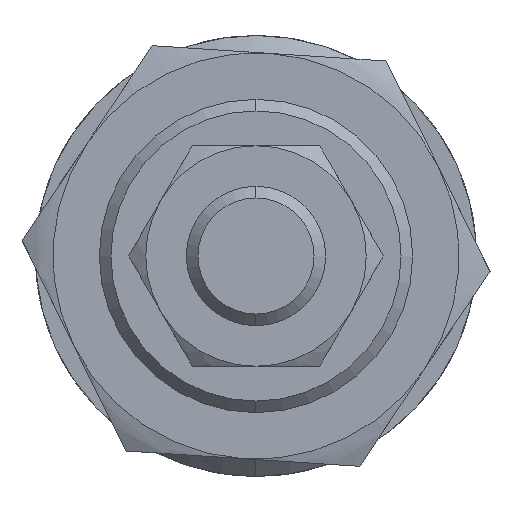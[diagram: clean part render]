
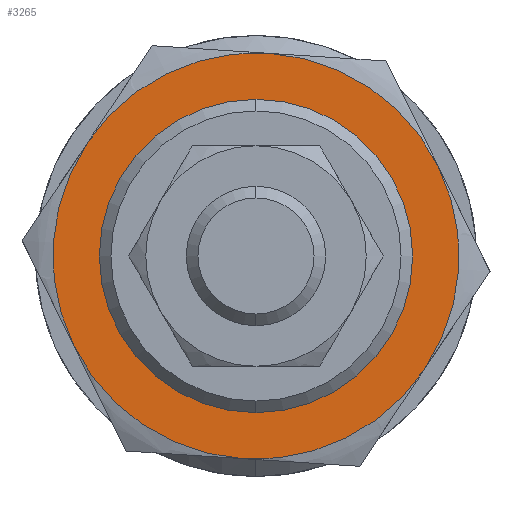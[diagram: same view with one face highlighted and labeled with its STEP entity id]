
A CAD part, left-side view. The second image highlights one B-rep face of the part: STEP entity #3265.
In plain terms, the highlighted planar face has unit normal (-1, 0, 0) as drawn and (0, 0, -1) by its records, which use the part's own axes.
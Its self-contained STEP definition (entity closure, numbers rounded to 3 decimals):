
#125 = CARTESIAN_POINT ( 'NONE',  ( 8.75, -15.155, -5. ) ) ;
#158 = CARTESIAN_POINT ( 'NONE',  ( 0., 0., -5. ) ) ;
#179 = DIRECTION ( 'NONE',  ( 1., 0., 0. ) ) ;
#211 = AXIS2_PLACEMENT_3D ( 'NONE', #2589, #505, #179 ) ;
#315 = AXIS2_PLACEMENT_3D ( 'NONE', #3096, #3372, #2515 ) ;
#350 = CIRCLE ( 'NONE', #1074, 17.5 ) ;
#436 = ORIENTED_EDGE ( 'NONE', *, *, #1424, .F. ) ;
#503 = PLANE ( 'NONE',  #211 ) ;
#504 = CIRCLE ( 'NONE', #3092, 12.5 ) ;
#505 = DIRECTION ( 'NONE',  ( 0., 0., 1. ) ) ;
#558 = AXIS2_PLACEMENT_3D ( 'NONE', #1020, #3340, #2479 ) ;
#568 = EDGE_CURVE ( 'NONE', #3305, #1130, #504, .T. ) ;
#698 = CIRCLE ( 'NONE', #993, 12.5 ) ;
#742 = CARTESIAN_POINT ( 'NONE',  ( -17.5, 0., -5. ) ) ;
#783 = ORIENTED_EDGE ( 'NONE', *, *, #2029, .F. ) ;
#833 = FACE_BOUND ( 'NONE', #1839, .T. ) ;
#923 = CIRCLE ( 'NONE', #315, 17.5 ) ;
#927 = ORIENTED_EDGE ( 'NONE', *, *, #3435, .T. ) ;
#930 = CARTESIAN_POINT ( 'NONE',  ( -8.75, -15.155, -5. ) ) ;
#961 = DIRECTION ( 'NONE',  ( 1., 0., 0. ) ) ;
#993 = AXIS2_PLACEMENT_3D ( 'NONE', #2906, #2248, #961 ) ;
#1016 = DIRECTION ( 'NONE',  ( 0., 0., 1. ) ) ;
#1020 = CARTESIAN_POINT ( 'NONE',  ( 0., 0., -5. ) ) ;
#1034 = VERTEX_POINT ( 'NONE', #3225 ) ;
#1074 = AXIS2_PLACEMENT_3D ( 'NONE', #158, #2758, #2163 ) ;
#1130 = VERTEX_POINT ( 'NONE', #2419 ) ;
#1166 = CIRCLE ( 'NONE', #2606, 17.5 ) ;
#1215 = CIRCLE ( 'NONE', #2551, 17.5 ) ;
#1251 = VERTEX_POINT ( 'NONE', #125 ) ;
#1324 = DIRECTION ( 'NONE',  ( 0., 0., 1. ) ) ;
#1347 = VERTEX_POINT ( 'NONE', #742 ) ;
#1424 = EDGE_CURVE ( 'NONE', #1034, #1347, #1166, .T. ) ;
#1471 = CARTESIAN_POINT ( 'NONE',  ( 8.75, 15.155, -5. ) ) ;
#1508 = VERTEX_POINT ( 'NONE', #2448 ) ;
#1511 = VERTEX_POINT ( 'NONE', #930 ) ;
#1600 = FACE_OUTER_BOUND ( 'NONE', #3414, .T. ) ;
#1638 = EDGE_CURVE ( 'NONE', #1508, #1683, #350, .T. ) ;
#1683 = VERTEX_POINT ( 'NONE', #1471 ) ;
#1786 = EDGE_CURVE ( 'NONE', #1251, #1508, #923, .T. ) ;
#1839 = EDGE_LOOP ( 'NONE', ( #927, #3199 ) ) ;
#1853 = ORIENTED_EDGE ( 'NONE', *, *, #2044, .F. ) ;
#1952 = EDGE_CURVE ( 'NONE', #1683, #1034, #2266, .T. ) ;
#2029 = EDGE_CURVE ( 'NONE', #1511, #1251, #1215, .T. ) ;
#2044 = EDGE_CURVE ( 'NONE', #1347, #1511, #3471, .T. ) ;
#2059 = DIRECTION ( 'NONE',  ( 1., 0., 0. ) ) ;
#2085 = DIRECTION ( 'NONE',  ( 1., 0., 0. ) ) ;
#2119 = DIRECTION ( 'NONE',  ( 1., 0., 0. ) ) ;
#2163 = DIRECTION ( 'NONE',  ( 1., 0., 0. ) ) ;
#2206 = DIRECTION ( 'NONE',  ( 0., 0., 1. ) ) ;
#2248 = DIRECTION ( 'NONE',  ( 0., 0., 1. ) ) ;
#2266 = CIRCLE ( 'NONE', #3027, 17.5 ) ;
#2288 = ORIENTED_EDGE ( 'NONE', *, *, #1952, .F. ) ;
#2419 = CARTESIAN_POINT ( 'NONE',  ( 12.5, 0., -5. ) ) ;
#2448 = CARTESIAN_POINT ( 'NONE',  ( 17.5, 0., -5. ) ) ;
#2457 = ORIENTED_EDGE ( 'NONE', *, *, #1638, .F. ) ;
#2475 = CARTESIAN_POINT ( 'NONE',  ( -12.5, 0., -5. ) ) ;
#2479 = DIRECTION ( 'NONE',  ( 1., 0., 0. ) ) ;
#2515 = DIRECTION ( 'NONE',  ( 1., 0., 0. ) ) ;
#2551 = AXIS2_PLACEMENT_3D ( 'NONE', #2892, #1324, #2059 ) ;
#2589 = CARTESIAN_POINT ( 'NONE',  ( 0., 0., -5. ) ) ;
#2606 = AXIS2_PLACEMENT_3D ( 'NONE', #3024, #2206, #2085 ) ;
#2682 = ORIENTED_EDGE ( 'NONE', *, *, #1786, .F. ) ;
#2758 = DIRECTION ( 'NONE',  ( 0., 0., 1. ) ) ;
#2783 = CARTESIAN_POINT ( 'NONE',  ( 0., 0., -5. ) ) ;
#2892 = CARTESIAN_POINT ( 'NONE',  ( 0., 0., -5. ) ) ;
#2906 = CARTESIAN_POINT ( 'NONE',  ( 0., 0., -5. ) ) ;
#3005 = DIRECTION ( 'NONE',  ( 1., 0., 0. ) ) ;
#3024 = CARTESIAN_POINT ( 'NONE',  ( 0., 0., -5. ) ) ;
#3027 = AXIS2_PLACEMENT_3D ( 'NONE', #3163, #3226, #2119 ) ;
#3092 = AXIS2_PLACEMENT_3D ( 'NONE', #2783, #1016, #3005 ) ;
#3096 = CARTESIAN_POINT ( 'NONE',  ( 0., 0., -5. ) ) ;
#3163 = CARTESIAN_POINT ( 'NONE',  ( 0., 0., -5. ) ) ;
#3199 = ORIENTED_EDGE ( 'NONE', *, *, #568, .T. ) ;
#3225 = CARTESIAN_POINT ( 'NONE',  ( -8.75, 15.155, -5. ) ) ;
#3226 = DIRECTION ( 'NONE',  ( 0., 0., 1. ) ) ;
#3265 = ADVANCED_FACE ( 'NONE', ( #833, #1600 ), #503, .F. ) ;
#3305 = VERTEX_POINT ( 'NONE', #2475 ) ;
#3340 = DIRECTION ( 'NONE',  ( 0., 0., 1. ) ) ;
#3372 = DIRECTION ( 'NONE',  ( 0., 0., 1. ) ) ;
#3414 = EDGE_LOOP ( 'NONE', ( #2457, #2682, #783, #1853, #436, #2288 ) ) ;
#3435 = EDGE_CURVE ( 'NONE', #1130, #3305, #698, .T. ) ;
#3471 = CIRCLE ( 'NONE', #558, 17.5 ) ;
